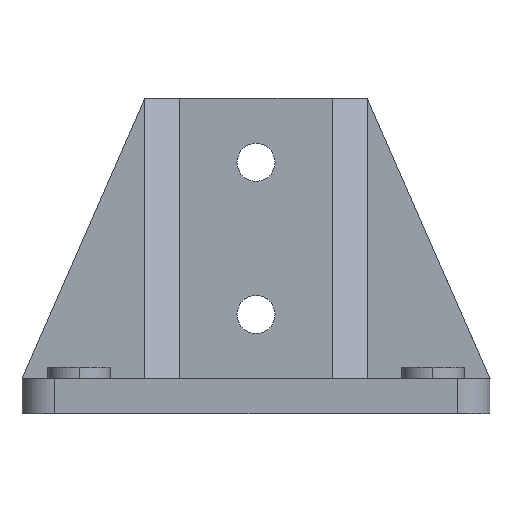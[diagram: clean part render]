
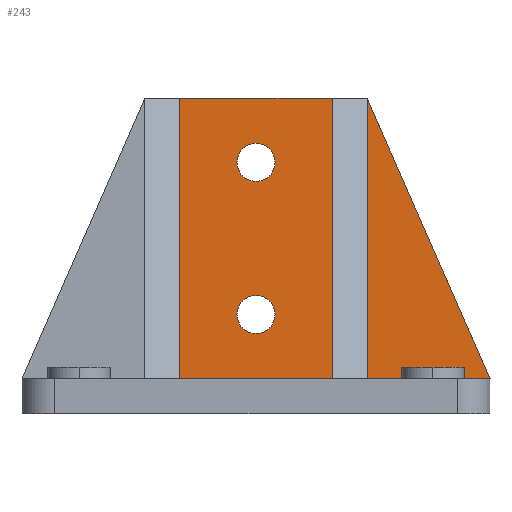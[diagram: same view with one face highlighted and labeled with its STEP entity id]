
A CAD part, front view. The second image highlights one B-rep face of the part: STEP entity #243.
In plain terms, the highlighted planar face has unit normal (0, -1, 0).
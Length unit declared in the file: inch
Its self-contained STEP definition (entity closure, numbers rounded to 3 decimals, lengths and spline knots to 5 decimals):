
#243=ADVANCED_FACE('',(#528,#529,#530,#531),#532,.T.);
#528=FACE_BOUND('',#1054,.T.);
#529=FACE_BOUND('',#1055,.T.);
#530=FACE_BOUND('',#1056,.T.);
#531=FACE_OUTER_BOUND('',#1057,.T.);
#532=PLANE('',#1058);
#1054=EDGE_LOOP('',(#1751,#1752,#1753,#1754));
#1055=EDGE_LOOP('',(#1755,#1756,#1757,#1758));
#1056=EDGE_LOOP('',(#1759,#1760,#1761,#1762));
#1057=EDGE_LOOP('',(#1763,#1764,#1765,#1766,#1767,#1768,#1769));
#1058=AXIS2_PLACEMENT_3D('',#1770,#1771,#1772);
#1751=ORIENTED_EDGE('',*,*,#2402,.T.);
#1752=ORIENTED_EDGE('',*,*,#2334,.T.);
#1753=ORIENTED_EDGE('',*,*,#2403,.T.);
#1754=ORIENTED_EDGE('',*,*,#2396,.T.);
#1755=ORIENTED_EDGE('',*,*,#2242,.T.);
#1756=ORIENTED_EDGE('',*,*,#2259,.T.);
#1757=ORIENTED_EDGE('',*,*,#2351,.T.);
#1758=ORIENTED_EDGE('',*,*,#2318,.T.);
#1759=ORIENTED_EDGE('',*,*,#2404,.T.);
#1760=ORIENTED_EDGE('',*,*,#2405,.T.);
#1761=ORIENTED_EDGE('',*,*,#2374,.T.);
#1762=ORIENTED_EDGE('',*,*,#2362,.T.);
#1763=ORIENTED_EDGE('',*,*,#2406,.T.);
#1764=ORIENTED_EDGE('',*,*,#2311,.T.);
#1765=ORIENTED_EDGE('',*,*,#2407,.T.);
#1766=ORIENTED_EDGE('',*,*,#2408,.F.);
#1767=ORIENTED_EDGE('',*,*,#2409,.F.);
#1768=ORIENTED_EDGE('',*,*,#2220,.F.);
#1769=ORIENTED_EDGE('',*,*,#2410,.F.);
#1770=CARTESIAN_POINT('',(2.5,1.3125,0.0));
#1771=DIRECTION('',(0.0,-1.0,0.0));
#1772=DIRECTION('',(1.0,0.0,0.0));
#2220=EDGE_CURVE('',#2616,#2619,#2620,.T.);
#2242=EDGE_CURVE('',#2655,#2656,#2657,.T.);
#2259=EDGE_CURVE('',#2656,#2683,#2684,.T.);
#2311=EDGE_CURVE('',#2772,#2769,#2773,.T.);
#2318=EDGE_CURVE('',#2782,#2655,#2783,.T.);
#2334=EDGE_CURVE('',#2806,#2807,#2808,.T.);
#2351=EDGE_CURVE('',#2683,#2782,#2834,.T.);
#2362=EDGE_CURVE('',#2850,#2851,#2852,.T.);
#2374=EDGE_CURVE('',#2869,#2850,#2870,.T.);
#2396=EDGE_CURVE('',#2899,#2900,#2901,.T.);
#2402=EDGE_CURVE('',#2900,#2806,#2908,.T.);
#2403=EDGE_CURVE('',#2807,#2899,#2909,.T.);
#2404=EDGE_CURVE('',#2851,#2910,#2911,.T.);
#2405=EDGE_CURVE('',#2910,#2869,#2912,.T.);
#2406=EDGE_CURVE('',#2913,#2772,#2914,.T.);
#2407=EDGE_CURVE('',#2769,#2915,#2916,.T.);
#2408=EDGE_CURVE('',#2917,#2915,#2918,.T.);
#2409=EDGE_CURVE('',#2619,#2917,#2919,.T.);
#2410=EDGE_CURVE('',#2913,#2616,#2920,.T.);
#2616=VERTEX_POINT('',#3210);
#2619=VERTEX_POINT('',#3214);
#2620=LINE('',#3215,#3216);
#2655=VERTEX_POINT('',#3279);
#2656=VERTEX_POINT('',#3280);
#2657=B_SPLINE_CURVE_WITH_KNOTS('',3,(#3281,#3282,#3283,#3284),.UNSPECIFIED.,.F.,.F.,(4,4),(0.0,1.0),.UNSPECIFIED.);
#2683=VERTEX_POINT('',#3328);
#2684=B_SPLINE_CURVE_WITH_KNOTS('',3,(#3329,#3330,#3331,#3332),.UNSPECIFIED.,.F.,.F.,(4,4),(0.0,1.0),.UNSPECIFIED.);
#2769=VERTEX_POINT('',#3509);
#2772=VERTEX_POINT('',#3513);
#2773=LINE('',#3514,#3515);
#2782=VERTEX_POINT('',#3528);
#2783=B_SPLINE_CURVE_WITH_KNOTS('',3,(#3529,#3530,#3531,#3532),.UNSPECIFIED.,.F.,.F.,(4,4),(0.0,1.0),.UNSPECIFIED.);
#2806=VERTEX_POINT('',#3570);
#2807=VERTEX_POINT('',#3571);
#2808=LINE('',#3572,#3573);
#2834=B_SPLINE_CURVE_WITH_KNOTS('',3,(#3626,#3627,#3628,#3629),.UNSPECIFIED.,.F.,.F.,(4,4),(0.0,1.0),.UNSPECIFIED.);
#2850=VERTEX_POINT('',#3658);
#2851=VERTEX_POINT('',#3659);
#2852=B_SPLINE_CURVE_WITH_KNOTS('',3,(#3660,#3661,#3662,#3663),.UNSPECIFIED.,.F.,.F.,(4,4),(0.0,1.0),.UNSPECIFIED.);
#2869=VERTEX_POINT('',#3694);
#2870=B_SPLINE_CURVE_WITH_KNOTS('',3,(#3695,#3696,#3697,#3698),.UNSPECIFIED.,.F.,.F.,(4,4),(0.0,1.0),.UNSPECIFIED.);
#2899=VERTEX_POINT('',#3763);
#2900=VERTEX_POINT('',#3764);
#2901=LINE('',#3765,#3766);
#2908=LINE('',#3778,#3779);
#2909=LINE('',#3780,#3781);
#2910=VERTEX_POINT('',#3782);
#2911=B_SPLINE_CURVE_WITH_KNOTS('',3,(#3783,#3784,#3785,#3786),.UNSPECIFIED.,.F.,.F.,(4,4),(0.0,1.0),.UNSPECIFIED.);
#2912=B_SPLINE_CURVE_WITH_KNOTS('',3,(#3787,#3788,#3789,#3790),.UNSPECIFIED.,.F.,.F.,(4,4),(0.0,1.0),.UNSPECIFIED.);
#2913=VERTEX_POINT('',#3791);
#2914=LINE('',#3792,#3793);
#2915=VERTEX_POINT('',#3794);
#2916=LINE('',#3795,#3796);
#2917=VERTEX_POINT('',#3797);
#2918=LINE('',#3798,#3799);
#2919=LINE('',#3800,#3801);
#2920=LINE('',#3802,#3803);
#3210=CARTESIAN_POINT('',(3.6875,1.3125,2.99956));
#3214=CARTESIAN_POINT('',(4.99981,1.3125,0.0));
#3215=CARTESIAN_POINT('',(3.68731,1.3125,2.99999));
#3216=VECTOR('',#4092,1.0);
#3279=CARTESIAN_POINT('',(2.29687,1.3125,0.6875));
#3280=CARTESIAN_POINT('',(2.5,1.3125,0.89063));
#3281=CARTESIAN_POINT('',(2.29687,1.3125,0.6875));
#3282=CARTESIAN_POINT('',(2.29687,1.3125,0.7997));
#3283=CARTESIAN_POINT('',(2.38783,1.3125,0.89063));
#3284=CARTESIAN_POINT('',(2.5,1.3125,0.89063));
#3328=CARTESIAN_POINT('',(2.70312,1.3125,0.6875));
#3329=CARTESIAN_POINT('',(2.5,1.3125,0.89063));
#3330=CARTESIAN_POINT('',(2.61219,1.3125,0.89063));
#3331=CARTESIAN_POINT('',(2.70312,1.3125,0.7997));
#3332=CARTESIAN_POINT('',(2.70312,1.3125,0.6875));
#3509=CARTESIAN_POINT('',(3.3125,1.3125,3.0));
#3513=CARTESIAN_POINT('',(3.3125,1.3125,0.00001));
#3514=CARTESIAN_POINT('',(3.3125,1.3125,0.62026));
#3515=VECTOR('',#4130,1.0);
#3528=CARTESIAN_POINT('',(2.5,1.3125,0.48438));
#3529=CARTESIAN_POINT('',(2.5,1.3125,0.48438));
#3530=CARTESIAN_POINT('',(2.38783,1.3125,0.48438));
#3531=CARTESIAN_POINT('',(2.29687,1.3125,0.57533));
#3532=CARTESIAN_POINT('',(2.29687,1.3125,0.6875));
#3570=CARTESIAN_POINT('',(1.68751,1.3125,2.99957));
#3571=CARTESIAN_POINT('',(1.68751,1.3125,0.00001));
#3572=CARTESIAN_POINT('',(1.68751,1.3125,0.62026));
#3573=VECTOR('',#4144,1.0);
#3626=CARTESIAN_POINT('',(2.70312,1.3125,0.6875));
#3627=CARTESIAN_POINT('',(2.70312,1.3125,0.57533));
#3628=CARTESIAN_POINT('',(2.61219,1.3125,0.48438));
#3629=CARTESIAN_POINT('',(2.5,1.3125,0.48438));
#3658=CARTESIAN_POINT('',(2.5,1.3125,2.10938));
#3659=CARTESIAN_POINT('',(2.29687,1.3125,2.3125));
#3660=CARTESIAN_POINT('',(2.5,1.3125,2.10938));
#3661=CARTESIAN_POINT('',(2.38783,1.3125,2.10938));
#3662=CARTESIAN_POINT('',(2.29687,1.3125,2.20033));
#3663=CARTESIAN_POINT('',(2.29687,1.3125,2.3125));
#3694=CARTESIAN_POINT('',(2.70312,1.3125,2.3125));
#3695=CARTESIAN_POINT('',(2.70312,1.3125,2.3125));
#3696=CARTESIAN_POINT('',(2.70312,1.3125,2.20033));
#3697=CARTESIAN_POINT('',(2.61219,1.3125,2.10938));
#3698=CARTESIAN_POINT('',(2.5,1.3125,2.10938));
#3763=CARTESIAN_POINT('',(1.31251,1.3125,0.00001));
#3764=CARTESIAN_POINT('',(1.31251,1.3125,2.99957));
#3765=CARTESIAN_POINT('',(1.31251,1.3125,0.62026));
#3766=VECTOR('',#4166,1.0);
#3778=CARTESIAN_POINT('',(1.90625,1.3125,2.99957));
#3779=VECTOR('',#4169,1.);
#3780=CARTESIAN_POINT('',(1.90625,1.3125,0.00001));
#3781=VECTOR('',#4170,1.);
#3782=CARTESIAN_POINT('',(2.5,1.3125,2.51564));
#3783=CARTESIAN_POINT('',(2.29687,1.3125,2.3125));
#3784=CARTESIAN_POINT('',(2.29687,1.3125,2.4247));
#3785=CARTESIAN_POINT('',(2.38783,1.3125,2.51564));
#3786=CARTESIAN_POINT('',(2.5,1.3125,2.51564));
#3787=CARTESIAN_POINT('',(2.5,1.3125,2.51564));
#3788=CARTESIAN_POINT('',(2.61219,1.3125,2.51564));
#3789=CARTESIAN_POINT('',(2.70312,1.3125,2.4247));
#3790=CARTESIAN_POINT('',(2.70312,1.3125,2.3125));
#3791=CARTESIAN_POINT('',(3.6875,1.3125,0.00001));
#3792=CARTESIAN_POINT('',(2.90625,1.3125,0.00001));
#3793=VECTOR('',#4171,1.);
#3794=CARTESIAN_POINT('',(1.31249,1.3125,3.0));
#3795=CARTESIAN_POINT('',(3.6875,1.3125,3.0));
#3796=VECTOR('',#4172,1.);
#3797=CARTESIAN_POINT('',(1.31249,1.3125,0.0));
#3798=CARTESIAN_POINT('',(1.31249,1.3125,0.0));
#3799=VECTOR('',#4173,1.0);
#3800=CARTESIAN_POINT('',(2.5,1.3125,0.0));
#3801=VECTOR('',#4174,1.0);
#3802=CARTESIAN_POINT('',(3.6875,1.3125,1.24051));
#3803=VECTOR('',#4175,1.0);
#4092=DIRECTION('',(0.401,0.0,-0.916));
#4130=DIRECTION('',(0.,0.0,1.0));
#4144=DIRECTION('',(0.,0.0,-1.0));
#4166=DIRECTION('',(0.,0.0,1.0));
#4169=DIRECTION('',(1.0,0.0,0.0));
#4170=DIRECTION('',(-1.0,0.0,0.0));
#4171=DIRECTION('',(-1.0,0.0,0.0));
#4172=DIRECTION('',(-1.0,0.0,0.0));
#4173=DIRECTION('',(0.0,0.0,1.0));
#4174=DIRECTION('',(-1.0,0.0,0.0));
#4175=DIRECTION('',(0.,0.,1.0));
